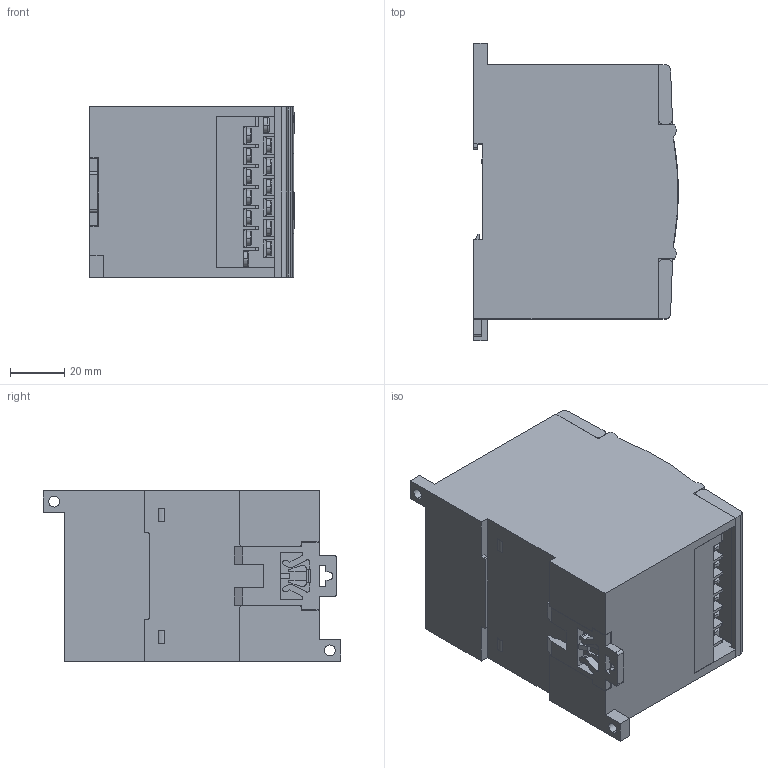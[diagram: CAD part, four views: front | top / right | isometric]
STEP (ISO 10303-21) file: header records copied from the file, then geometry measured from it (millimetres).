
FILE_DESCRIPTION (( 'STEP AP214' ), '1' );
FILE_NAME ('3D Ìîäåëü ÌÊ110-220.4Ê.4Ð.STEP', '2015-12-01T09:44:04', ( '' ), ( '' ), 'SwSTEP 2.0', 'SolidWorks 2014', '' );
FILE_SCHEMA (( 'AUTOMOTIVE_DESIGN' ));
Length unit declared in the file: millimetre
Products named in the file (6): MX110_005FA01M; Êîðïóñ ÌÊ110-220.4Ê.4Ð; 3D Ìîäåëü ÌÊ110-220.4Ê.4Ð; 婰膲僗闉; Êðûøêà ïðîçðà÷íàÿ ÌÊ110; Ðîçåòêà ÌÕ-12
Assembly tree (7 placements, depth 2):
  3D Ìîäåëü ÌÊ110-220.4Ê.4Ð
    Êîðïóñ ÌÊ110-220.4Ê.4Ð
    MX110_005FA01M
    Ðîçåòêà ÌÕ-12  x2
    Êðûøêà ïðîçðà÷íàÿ ÌÊ110  x2
    婰膲僗闉
Bounding box: 75.62 x 110 x 63 mm (x, y, z)
Volume: 413447.8 mm3; surface area: 63189.6 mm2
Topology: 36 solids, 36 shells, 1793 faces, 4640 edges, 3069 vertices
Faces by surface type: plane 1126, bspline 315, cylinder 244, cone 104, torus 4
Entity records: 66722 total; most frequent: CARTESIAN_POINT 22848, ORIENTED_EDGE 7216, DIRECTION 5463, EDGE_CURVE 3608, VERTEX_POINT 2393, VECTOR 1871, LINE 1871, AXIS2_PLACEMENT_3D 1796
